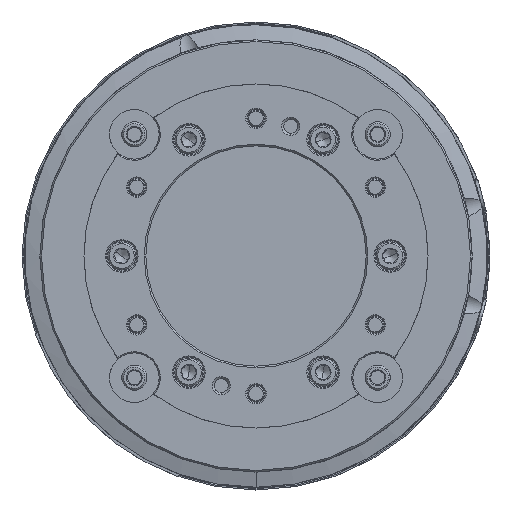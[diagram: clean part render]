
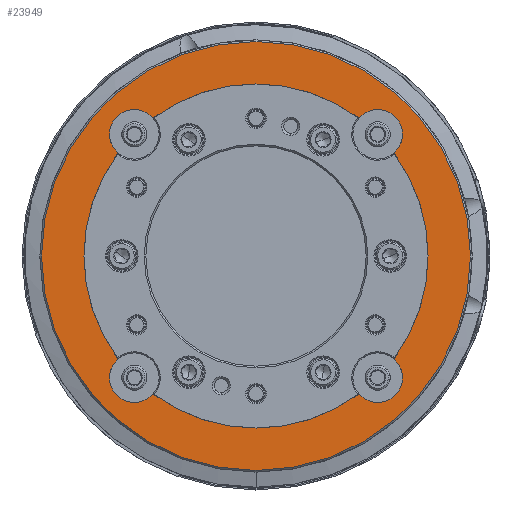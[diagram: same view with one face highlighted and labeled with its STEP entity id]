
A CAD part, left-side view. The second image highlights one B-rep face of the part: STEP entity #23949.
In plain terms, the highlighted planar face has unit normal (-1, 0, 0).
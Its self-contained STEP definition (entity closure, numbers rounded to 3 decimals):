
#1102 = CARTESIAN_POINT ( 'NONE',  ( -92.5, -44.194, -44.194 ) ) ;
#2036 = CIRCLE ( 'NONE', #5326, 62.5 ) ;
#2080 = CIRCLE ( 'NONE', #96281, 62.5 ) ;
#2796 = CARTESIAN_POINT ( 'NONE',  ( -92.5, -44.194, 44.194 ) ) ;
#3121 = DIRECTION ( 'NONE',  ( 0., 0., 1. ) ) ;
#3204 = CARTESIAN_POINT ( 'NONE',  ( -92.5, -44.194, 44.194 ) ) ;
#3632 = FACE_BOUND ( 'NONE', #16600, .T. ) ;
#4917 = DIRECTION ( 'NONE',  ( -1., 0., 0. ) ) ;
#5326 = AXIS2_PLACEMENT_3D ( 'NONE', #41997, #9429, #17707 ) ;
#6457 = CARTESIAN_POINT ( 'NONE',  ( -92.5, 44.194, -44.194 ) ) ;
#6877 = EDGE_CURVE ( 'NONE', #21745, #13327, #14011, .T. ) ;
#7681 = CIRCLE ( 'NONE', #82072, 62.5 ) ;
#8042 = EDGE_CURVE ( 'NONE', #42039, #59337, #7681, .T. ) ;
#8440 = CARTESIAN_POINT ( 'NONE',  ( -92.5, -50.083, -37.389 ) ) ;
#8566 = VERTEX_POINT ( 'NONE', #73334 ) ;
#8597 = DIRECTION ( 'NONE',  ( 0., 0., -1. ) ) ;
#9185 = ORIENTED_EDGE ( 'NONE', *, *, #11162, .F. ) ;
#9327 = DIRECTION ( 'NONE',  ( -1., 0., 0. ) ) ;
#9429 = DIRECTION ( 'NONE',  ( 1., 0., 0. ) ) ;
#9858 = DIRECTION ( 'NONE',  ( -1., 0., 0. ) ) ;
#10271 = EDGE_LOOP ( 'NONE', ( #35537, #51607 ) ) ;
#10420 = DIRECTION ( 'NONE',  ( 1., 0., 0. ) ) ;
#11162 = EDGE_CURVE ( 'NONE', #13327, #22748, #96867, .T. ) ;
#11535 = DIRECTION ( 'NONE',  ( 0., 0., 1. ) ) ;
#13151 = VERTEX_POINT ( 'NONE', #42023 ) ;
#13327 = VERTEX_POINT ( 'NONE', #69961 ) ;
#13355 = ORIENTED_EDGE ( 'NONE', *, *, #87628, .T. ) ;
#13799 = DIRECTION ( 'NONE',  ( 0., 0., 1. ) ) ;
#14011 = CIRCLE ( 'NONE', #56934, 9. ) ;
#14349 = AXIS2_PLACEMENT_3D ( 'NONE', #18340, #56659, #34322 ) ;
#14861 = CIRCLE ( 'NONE', #59404, 9. ) ;
#15578 = ORIENTED_EDGE ( 'NONE', *, *, #31744, .F. ) ;
#16600 = EDGE_LOOP ( 'NONE', ( #15578, #52109, #9185, #58841, #63982, #83046, #101257, #13355, #55516, #33092, #76586, #55250, #49271 ) ) ;
#16675 = AXIS2_PLACEMENT_3D ( 'NONE', #38858, #47650, #92724 ) ;
#17657 = CIRCLE ( 'NONE', #14349, 9. ) ;
#17707 = DIRECTION ( 'NONE',  ( 0., 0., -1. ) ) ;
#18340 = CARTESIAN_POINT ( 'NONE',  ( -92.5, -44.194, -44.194 ) ) ;
#18650 = VERTEX_POINT ( 'NONE', #8440 ) ;
#19737 = CIRCLE ( 'NONE', #80938, 77.9 ) ;
#20036 = CIRCLE ( 'NONE', #29949, 9. ) ;
#21745 = VERTEX_POINT ( 'NONE', #40651 ) ;
#22487 = DIRECTION ( 'NONE',  ( 0., 0., 1. ) ) ;
#22748 = VERTEX_POINT ( 'NONE', #76475 ) ;
#23165 = CARTESIAN_POINT ( 'NONE',  ( -92.5, -37.389, 50.083 ) ) ;
#23679 = AXIS2_PLACEMENT_3D ( 'NONE', #30131, #79803, #57476 ) ;
#23949 = ADVANCED_FACE ( 'NONE', ( #3632, #27410 ), #35158, .T. ) ;
#25141 = VERTEX_POINT ( 'NONE', #82996 ) ;
#25938 = VERTEX_POINT ( 'NONE', #70647 ) ;
#26608 = DIRECTION ( 'NONE',  ( -1., 0., 0. ) ) ;
#27410 = FACE_OUTER_BOUND ( 'NONE', #10271, .T. ) ;
#27867 = AXIS2_PLACEMENT_3D ( 'NONE', #1102, #9327, #56453 ) ;
#29520 = CIRCLE ( 'NONE', #60941, 9. ) ;
#29949 = AXIS2_PLACEMENT_3D ( 'NONE', #3204, #97926, #36786 ) ;
#30131 = CARTESIAN_POINT ( 'NONE',  ( -92.5, 0., 0. ) ) ;
#31744 = EDGE_CURVE ( 'NONE', #56083, #8566, #29520, .T. ) ;
#33092 = ORIENTED_EDGE ( 'NONE', *, *, #81873, .F. ) ;
#34322 = DIRECTION ( 'NONE',  ( 0., 0., 1. ) ) ;
#34802 = CARTESIAN_POINT ( 'NONE',  ( -92.5, 44.194, 44.194 ) ) ;
#35091 = EDGE_CURVE ( 'NONE', #25141, #50524, #77784, .T. ) ;
#35158 = PLANE ( 'NONE',  #54417 ) ;
#35537 = ORIENTED_EDGE ( 'NONE', *, *, #35091, .F. ) ;
#35819 = AXIS2_PLACEMENT_3D ( 'NONE', #42984, #10420, #74593 ) ;
#36786 = DIRECTION ( 'NONE',  ( 0., 0., 1. ) ) ;
#37467 = DIRECTION ( 'NONE',  ( -1., 0., 0. ) ) ;
#38858 = CARTESIAN_POINT ( 'NONE',  ( -92.5, 0., 0. ) ) ;
#40525 = DIRECTION ( 'NONE',  ( 1., 0., 0. ) ) ;
#40651 = CARTESIAN_POINT ( 'NONE',  ( -92.5, 37.389, 50.083 ) ) ;
#41332 = DIRECTION ( 'NONE',  ( 0., 0., -1. ) ) ;
#41657 = CARTESIAN_POINT ( 'NONE',  ( -92.5, 0., 0. ) ) ;
#41997 = CARTESIAN_POINT ( 'NONE',  ( -92.5, 0., 0. ) ) ;
#42023 = CARTESIAN_POINT ( 'NONE',  ( -92.5, -50.083, 37.389 ) ) ;
#42039 = VERTEX_POINT ( 'NONE', #100611 ) ;
#42984 = CARTESIAN_POINT ( 'NONE',  ( -92.5, 0., 0. ) ) ;
#45571 = EDGE_CURVE ( 'NONE', #59337, #25938, #65046, .T. ) ;
#46031 = VERTEX_POINT ( 'NONE', #62088 ) ;
#47650 = DIRECTION ( 'NONE',  ( 1., 0., 0. ) ) ;
#49271 = ORIENTED_EDGE ( 'NONE', *, *, #99480, .F. ) ;
#49845 = DIRECTION ( 'NONE',  ( -1., 0., 0. ) ) ;
#50524 = VERTEX_POINT ( 'NONE', #83398 ) ;
#51607 = ORIENTED_EDGE ( 'NONE', *, *, #64436, .F. ) ;
#51993 = CARTESIAN_POINT ( 'NONE',  ( -92.5, 44.194, 44.194 ) ) ;
#52000 = EDGE_CURVE ( 'NONE', #56083, #22748, #2036, .T. ) ;
#52109 = ORIENTED_EDGE ( 'NONE', *, *, #52000, .T. ) ;
#54417 = AXIS2_PLACEMENT_3D ( 'NONE', #98331, #58981, #13799 ) ;
#54780 = CARTESIAN_POINT ( 'NONE',  ( -92.5, -44.194, -53.194 ) ) ;
#55250 = ORIENTED_EDGE ( 'NONE', *, *, #45571, .T. ) ;
#55516 = ORIENTED_EDGE ( 'NONE', *, *, #63123, .F. ) ;
#56083 = VERTEX_POINT ( 'NONE', #69399 ) ;
#56396 = DIRECTION ( 'NONE',  ( 1., 0., 0. ) ) ;
#56453 = DIRECTION ( 'NONE',  ( 0., 0., 1. ) ) ;
#56601 = DIRECTION ( 'NONE',  ( 0., 0., -1. ) ) ;
#56659 = DIRECTION ( 'NONE',  ( -1., 0., 0. ) ) ;
#56934 = AXIS2_PLACEMENT_3D ( 'NONE', #51993, #4917, #69593 ) ;
#57476 = DIRECTION ( 'NONE',  ( 0., 0., -1. ) ) ;
#58179 = DIRECTION ( 'NONE',  ( 0., 0., 1. ) ) ;
#58806 = AXIS2_PLACEMENT_3D ( 'NONE', #34802, #49845, #11535 ) ;
#58841 = ORIENTED_EDGE ( 'NONE', *, *, #6877, .F. ) ;
#58981 = DIRECTION ( 'NONE',  ( -1., 0., 0. ) ) ;
#59337 = VERTEX_POINT ( 'NONE', #84010 ) ;
#59404 = AXIS2_PLACEMENT_3D ( 'NONE', #6457, #37467, #22487 ) ;
#59483 = EDGE_CURVE ( 'NONE', #21745, #89085, #90401, .T. ) ;
#60941 = AXIS2_PLACEMENT_3D ( 'NONE', #72488, #9858, #3121 ) ;
#62088 = CARTESIAN_POINT ( 'NONE',  ( -92.5, -44.194, 53.194 ) ) ;
#63123 = EDGE_CURVE ( 'NONE', #80278, #18650, #92291, .T. ) ;
#63982 = ORIENTED_EDGE ( 'NONE', *, *, #59483, .T. ) ;
#64436 = EDGE_CURVE ( 'NONE', #50524, #25141, #19737, .T. ) ;
#64489 = DIRECTION ( 'NONE',  ( 1., 0., 0. ) ) ;
#65046 = CIRCLE ( 'NONE', #23679, 62.5 ) ;
#67761 = EDGE_CURVE ( 'NONE', #46031, #89085, #20036, .T. ) ;
#69399 = CARTESIAN_POINT ( 'NONE',  ( -92.5, 50.083, -37.389 ) ) ;
#69593 = DIRECTION ( 'NONE',  ( 0., 0., 1. ) ) ;
#69961 = CARTESIAN_POINT ( 'NONE',  ( -92.5, 44.194, 53.194 ) ) ;
#70647 = CARTESIAN_POINT ( 'NONE',  ( -92.5, 37.389, -50.083 ) ) ;
#72488 = CARTESIAN_POINT ( 'NONE',  ( -92.5, 44.194, -44.194 ) ) ;
#73334 = CARTESIAN_POINT ( 'NONE',  ( -92.5, 44.194, -53.194 ) ) ;
#74593 = DIRECTION ( 'NONE',  ( 0., 0., -1. ) ) ;
#76475 = CARTESIAN_POINT ( 'NONE',  ( -92.5, 50.083, 37.389 ) ) ;
#76586 = ORIENTED_EDGE ( 'NONE', *, *, #8042, .T. ) ;
#77784 = CIRCLE ( 'NONE', #16675, 77.9 ) ;
#79803 = DIRECTION ( 'NONE',  ( 1., 0., 0. ) ) ;
#79915 = CARTESIAN_POINT ( 'NONE',  ( -92.5, 0., 0. ) ) ;
#80211 = CARTESIAN_POINT ( 'NONE',  ( -92.5, 0., 0. ) ) ;
#80278 = VERTEX_POINT ( 'NONE', #54780 ) ;
#80491 = CIRCLE ( 'NONE', #91995, 9. ) ;
#80938 = AXIS2_PLACEMENT_3D ( 'NONE', #41657, #64489, #8597 ) ;
#81873 = EDGE_CURVE ( 'NONE', #42039, #80278, #17657, .T. ) ;
#81896 = EDGE_CURVE ( 'NONE', #13151, #46031, #80491, .T. ) ;
#82072 = AXIS2_PLACEMENT_3D ( 'NONE', #80211, #56396, #41332 ) ;
#82996 = CARTESIAN_POINT ( 'NONE',  ( -92.5, 0., -77.9 ) ) ;
#83046 = ORIENTED_EDGE ( 'NONE', *, *, #67761, .F. ) ;
#83398 = CARTESIAN_POINT ( 'NONE',  ( -92.5, 0., 77.9 ) ) ;
#84010 = CARTESIAN_POINT ( 'NONE',  ( -92.5, 0., -62.5 ) ) ;
#87628 = EDGE_CURVE ( 'NONE', #13151, #18650, #2080, .T. ) ;
#89085 = VERTEX_POINT ( 'NONE', #23165 ) ;
#90401 = CIRCLE ( 'NONE', #35819, 62.5 ) ;
#91995 = AXIS2_PLACEMENT_3D ( 'NONE', #2796, #26608, #58179 ) ;
#92291 = CIRCLE ( 'NONE', #27867, 9. ) ;
#92724 = DIRECTION ( 'NONE',  ( 0., 0., -1. ) ) ;
#96281 = AXIS2_PLACEMENT_3D ( 'NONE', #79915, #40525, #56601 ) ;
#96867 = CIRCLE ( 'NONE', #58806, 9. ) ;
#97926 = DIRECTION ( 'NONE',  ( -1., 0., 0. ) ) ;
#98331 = CARTESIAN_POINT ( 'NONE',  ( -92.5, 62.5, 0. ) ) ;
#99480 = EDGE_CURVE ( 'NONE', #8566, #25938, #14861, .T. ) ;
#100611 = CARTESIAN_POINT ( 'NONE',  ( -92.5, -37.389, -50.083 ) ) ;
#101257 = ORIENTED_EDGE ( 'NONE', *, *, #81896, .F. ) ;
